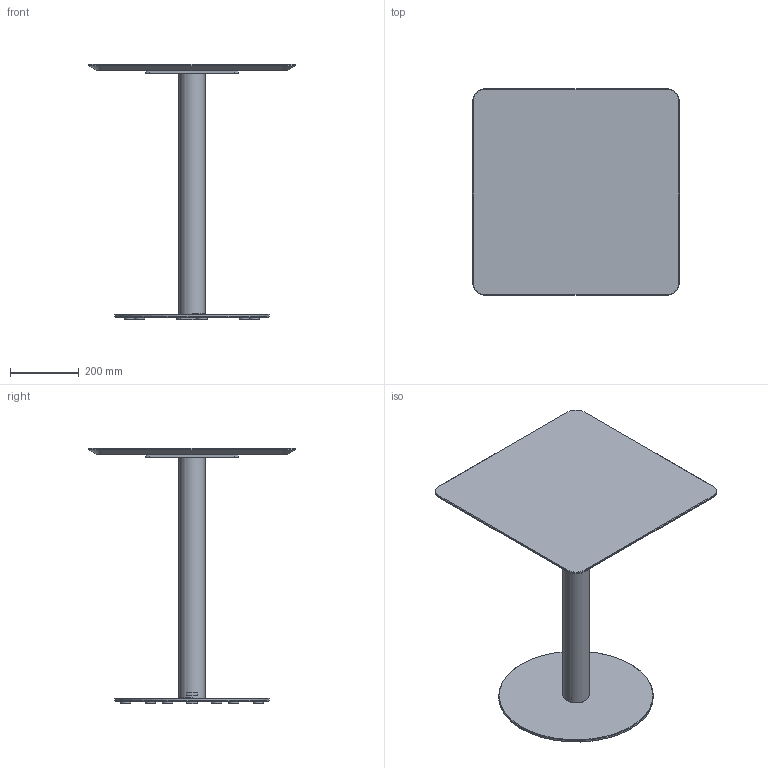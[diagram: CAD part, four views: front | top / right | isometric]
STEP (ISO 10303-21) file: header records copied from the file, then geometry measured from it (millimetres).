
FILE_DESCRIPTION( ('This file contains a STEP AP42 implementation' ,'as created by ZW3D STEP Interface translator.') ,'2;1' );
FILE_NAME( 'Henri - B_Rond - F3 - M5 - 600 x 600 x 750.stp' ,'24 912.154356', (''), ('ZWCAD Software Co.'), 'Version 1.0', 'ZW3D to STEP translator', '' );
FILE_SCHEMA(('AUTOMOTIVE_DESIGN { 1 0 10303 214 1 1 1 1 }'));
Length unit declared in the file: millimetre
Products named in the file (14): 0; PIED BISTROT PARAMETRIQUE_; COLONNE ACIER Ø76 V.02_; TUB-D076-02_; PLA-R76B-01_; SOCLE ACIER C Ø450 V.02_; SCL-D450-02_; PLA-R30A-01_; PLA-R30A-01; CROIX ACIER 370 V.02_; CRX-X370-02_; WUERTH 0276063020 Euro-screw 6.3x2 Verzinkt_; PLATEAU BISTROT PARAMETRIQUE_; insert_m6_13_
Assembly tree (24 placements, depth 3):
  0
  PIED BISTROT PARAMETRIQUE_
    COLONNE ACIER Ø76 V.02_
      TUB-D076-02_
      PLA-R76B-01_  x2
    SOCLE ACIER C Ø450 V.02_
      SCL-D450-02_
      PLA-R30A-01_
      PLA-R30A-01  x5
    CROIX ACIER 370 V.02_
      CRX-X370-02_
    WUERTH 0276063020 Euro-screw 6.3x2 Verzinkt_
    PLATEAU BISTROT PARAMETRIQUE_
      insert_m6_13_  x8
Bounding box: 600 x 600 x 744 mm (x, y, z)
Volume: 8953358.5 mm3; surface area: 1591350.6 mm2
Topology: 21 solids, 21 shells, 524 faces, 1273 edges, 802 vertices
Faces by surface type: plane 254, bspline 121, cylinder 99, cone 49, torus 1
Full cylindrical faces by diameter (mm): 4.88 x1, 6 x8, 6.3 x1, 8 x47, 12 x2, 14 x2, 30 x6, 72 x1, 76 x1, 450 x1
Entity records: 11734 total; most frequent: CARTESIAN_POINT 3302, ORIENTED_EDGE 1526, DIRECTION 1424, EDGE_CURVE 763, VERTEX_POINT 490, VECTOR 476, LINE 476, AXIS2_PLACEMENT_3D 474
